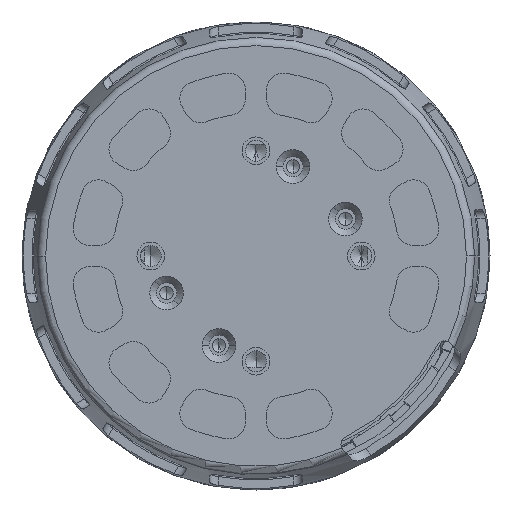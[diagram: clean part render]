
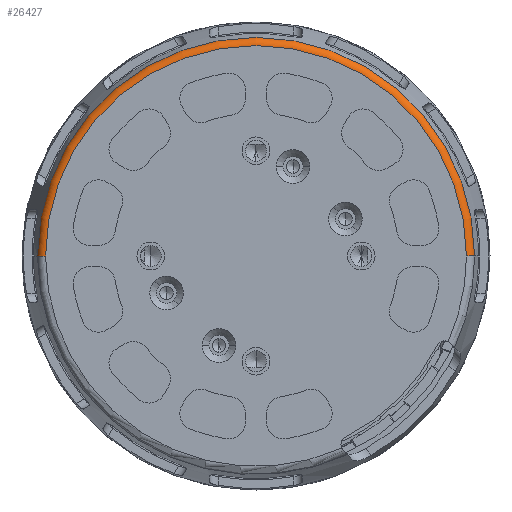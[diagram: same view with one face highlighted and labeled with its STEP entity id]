
A CAD part, left-side view. The second image highlights one B-rep face of the part: STEP entity #26427.
In plain terms, the highlighted toroidal (fillet/blend) face has major radius 25 mm and minor radius 1 mm.
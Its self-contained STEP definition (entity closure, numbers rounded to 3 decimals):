
#1690 = DIRECTION ( 'NONE',  ( 0., 0., -1. ) ) ;
#1967 = ORIENTED_EDGE ( 'NONE', *, *, #42902, .F. ) ;
#2021 = ORIENTED_EDGE ( 'NONE', *, *, #43484, .F. ) ;
#5394 = CARTESIAN_POINT ( 'NONE',  ( 87.466, 35.48, 6.365 ) ) ;
#8057 = AXIS2_PLACEMENT_3D ( 'NONE', #44680, #62795, #62402 ) ;
#8399 = DIRECTION ( 'NONE',  ( 0., 1., 0. ) ) ;
#9509 = VERTEX_POINT ( 'NONE', #26350 ) ;
#17753 = EDGE_LOOP ( 'NONE', ( #2021, #1967, #47195, #59173 ) ) ;
#25413 = VERTEX_POINT ( 'NONE', #5394 ) ;
#26350 = CARTESIAN_POINT ( 'NONE',  ( 86.715, 86.448, 6.365 ) ) ;
#26427 = ADVANCED_FACE ( 'NONE', ( #40852 ), #77975, .T. ) ;
#27258 = EDGE_CURVE ( 'NONE', #28899, #25413, #34115, .T. ) ;
#28899 = VERTEX_POINT ( 'NONE', #67885 ) ;
#32376 = CARTESIAN_POINT ( 'NONE',  ( 87.715, 86.448, 6.365 ) ) ;
#33549 = DIRECTION ( 'NONE',  ( -1., 0., 0. ) ) ;
#34115 = CIRCLE ( 'NONE', #56753, 25.968 ) ;
#34231 = DIRECTION ( 'NONE',  ( 0., -1., 0. ) ) ;
#34310 = DIRECTION ( 'NONE',  ( 0., -1., 0. ) ) ;
#39399 = CIRCLE ( 'NONE', #8057, 1. ) ;
#39404 = CARTESIAN_POINT ( 'NONE',  ( 86.715, 61.448, 6.365 ) ) ;
#40696 = VERTEX_POINT ( 'NONE', #76788 ) ;
#40852 = FACE_OUTER_BOUND ( 'NONE', #17753, .T. ) ;
#42902 = EDGE_CURVE ( 'NONE', #40696, #9509, #54145, .T. ) ;
#43484 = EDGE_CURVE ( 'NONE', #9509, #28899, #60588, .T. ) ;
#44680 = CARTESIAN_POINT ( 'NONE',  ( 87.715, 36.448, 6.365 ) ) ;
#46414 = DIRECTION ( 'NONE',  ( 1., 0., 0. ) ) ;
#47195 = ORIENTED_EDGE ( 'NONE', *, *, #69337, .T. ) ;
#51956 = CARTESIAN_POINT ( 'NONE',  ( 87.466, 61.448, 6.365 ) ) ;
#52761 = AXIS2_PLACEMENT_3D ( 'NONE', #64508, #70418, #34231 ) ;
#54145 = CIRCLE ( 'NONE', #74285, 25. ) ;
#56753 = AXIS2_PLACEMENT_3D ( 'NONE', #51956, #46414, #77160 ) ;
#59173 = ORIENTED_EDGE ( 'NONE', *, *, #27258, .F. ) ;
#60588 = CIRCLE ( 'NONE', #61911, 1. ) ;
#61911 = AXIS2_PLACEMENT_3D ( 'NONE', #32376, #1690, #8399 ) ;
#62402 = DIRECTION ( 'NONE',  ( 0., -1., 0. ) ) ;
#62795 = DIRECTION ( 'NONE',  ( 0., 0., 1. ) ) ;
#64508 = CARTESIAN_POINT ( 'NONE',  ( 87.715, 61.448, 6.365 ) ) ;
#67885 = CARTESIAN_POINT ( 'NONE',  ( 87.466, 87.417, 6.365 ) ) ;
#69337 = EDGE_CURVE ( 'NONE', #40696, #25413, #39399, .T. ) ;
#70418 = DIRECTION ( 'NONE',  ( 1., 0., 0. ) ) ;
#74285 = AXIS2_PLACEMENT_3D ( 'NONE', #39404, #33549, #34310 ) ;
#76788 = CARTESIAN_POINT ( 'NONE',  ( 86.715, 36.448, 6.365 ) ) ;
#77160 = DIRECTION ( 'NONE',  ( 0., 1., 0. ) ) ;
#77975 = TOROIDAL_SURFACE ( 'NONE', #52761, 25., 1. ) ;
